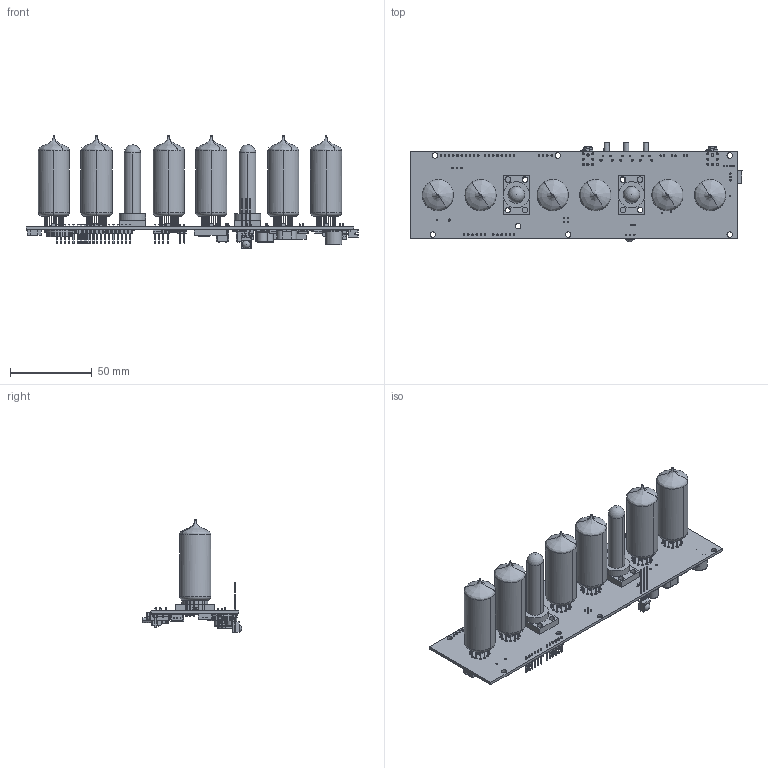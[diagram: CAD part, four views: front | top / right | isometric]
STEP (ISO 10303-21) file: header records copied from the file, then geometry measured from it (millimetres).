
FILE_DESCRIPTION(('Open CASCADE Model'),'2;1');
FILE_NAME('Open CASCADE Shape Model','2020-04-03T01:56:16',('Author'),( 'Open CASCADE'),'Open CASCADE STEP processor 6.8','Open CASCADE 6.8' ,'Unknown');
FILE_SCHEMA(('AUTOMOTIVE_DESIGN { 1 0 10303 214 1 1 1 1 }'));
Length unit declared in the file: millimetre
Products named in the file (1): PCB
Bounding box: 202.52 x 60.71 x 69.2 mm (x, y, z)
Volume: 26720.6 mm3; surface area: 63955.4 mm2
Topology: 80 solids, 4722 shells, 9043 faces, 34548 edges, 29815 vertices
Faces by surface type: plane 5492, cylinder 2401, bspline 775, sphere 308, cone 45, torus 22
Full cylindrical faces by diameter (mm): 0.8 x7, 0.9 x64, 1.1 x7, 1.3 x18, 1.4 x79, 1.5 x4, 3.3 x11
Entity records: 429889 total; most frequent: CARTESIAN_POINT 111952, DIRECTION 55396, ORIENTED_EDGE 44881, EDGE_CURVE 34105, VERTEX_POINT 29815, LINE 24710, VECTOR 24710, AXIS2_PLACEMENT_3D 15343
